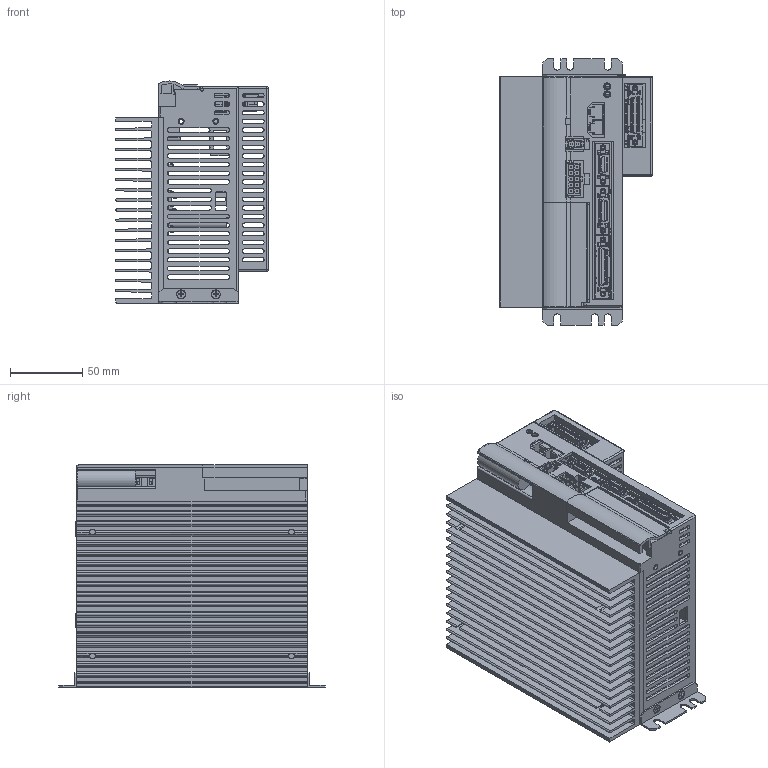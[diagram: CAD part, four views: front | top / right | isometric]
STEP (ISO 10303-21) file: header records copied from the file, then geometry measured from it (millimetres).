
FILE_DESCRIPTION( (''), '2;1');
FILE_NAME ('CA25-M40M80-_BC_3D.stp','2016-05-25T11:10:40',(''),(''),'spGate 11.3.10','spGate','');
FILE_SCHEMA (('AUTOMOTIVE_DESIGN'));
Length unit declared in the file: millimetre
Products named in the file (307): Assembly; CA25-M40M80-_BC_3D-prt0; CA25-M40M80-_BC_3D-prt1; CA25-M40M80-_BC_3D-prt2; CA25-M40M80-_BC_3D-prt3; CA25-M40M80-_BC_3D-prt4; CA25-M40M80-_BC_3D-prt5; CA25-M40M80-_BC_3D-prt6; CA25-M40M80-_BC_3D-prt7; CA25-M40M80-_BC_3D-prt8; CA25-M40M80-_BC_3D-prt9; CA25-M40M80-_BC_3D-prt10; CA25-M40M80-_BC_3D-prt11; CA25-M40M80-_BC_3D-prt12; CA25-M40M80-_BC_3D-prt13; CA25-M40M80-_BC_3D-prt14; CA25-M40M80-_BC_3D-prt15; CA25-M40M80-_BC_3D-prt16; CA25-M40M80-_BC_3D-prt17; CA25-M40M80-_BC_3D-prt18; CA25-M40M80-_BC_3D-prt19; CA25-M40M80-_BC_3D-prt20; CA25-M40M80-_BC_3D-prt21; CA25-M40M80-_BC_3D-prt22; CA25-M40M80-_BC_3D-prt23; CA25-M40M80-_BC_3D-prt24; CA25-M40M80-_BC_3D-prt25; CA25-M40M80-_BC_3D-prt26; CA25-M40M80-_BC_3D-prt27; CA25-M40M80-_BC_3D-prt28; CA25-M40M80-_BC_3D-prt29; CA25-M40M80-_BC_3D-prt30; CA25-M40M80-_BC_3D-prt31; CA25-M40M80-_BC_3D-prt32; CA25-M40M80-_BC_3D-prt33; CA25-M40M80-_BC_3D-prt34; CA25-M40M80-_BC_3D-prt35; CA25-M40M80-_BC_3D-prt36; CA25-M40M80-_BC_3D-prt37; CA25-M40M80-_BC_3D-prt38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
Assembly tree (306 placements, depth 2):
  Assembly
    CA25-M40M80-_BC_3D-prt0
    CA25-M40M80-_BC_3D-prt1
    CA25-M40M80-_BC_3D-prt2
    CA25-M40M80-_BC_3D-prt3
    CA25-M40M80-_BC_3D-prt4
    CA25-M40M80-_BC_3D-prt5
    CA25-M40M80-_BC_3D-prt6
    CA25-M40M80-_BC_3D-prt7
    CA25-M40M80-_BC_3D-prt8
    CA25-M40M80-_BC_3D-prt9
    CA25-M40M80-_BC_3D-prt10
    CA25-M40M80-_BC_3D-prt11
    CA25-M40M80-_BC_3D-prt12
    CA25-M40M80-_BC_3D-prt13
    CA25-M40M80-_BC_3D-prt14
    CA25-M40M80-_BC_3D-prt15
    CA25-M40M80-_BC_3D-prt16
    CA25-M40M80-_BC_3D-prt17
    CA25-M40M80-_BC_3D-prt18
    CA25-M40M80-_BC_3D-prt19
    CA25-M40M80-_BC_3D-prt20
    CA25-M40M80-_BC_3D-prt21
    CA25-M40M80-_BC_3D-prt22
    CA25-M40M80-_BC_3D-prt23
    CA25-M40M80-_BC_3D-prt24
    CA25-M40M80-_BC_3D-prt25
    CA25-M40M80-_BC_3D-prt26
    CA25-M40M80-_BC_3D-prt27
    CA25-M40M80-_BC_3D-prt28
    CA25-M40M80-_BC_3D-prt29
    CA25-M40M80-_BC_3D-prt30
    CA25-M40M80-_BC_3D-prt31
    CA25-M40M80-_BC_3D-prt32
    CA25-M40M80-_BC_3D-prt33
    CA25-M40M80-_BC_3D-prt34
    CA25-M40M80-_BC_3D-prt35
    CA25-M40M80-_BC_3D-prt36
    CA25-M40M80-_BC_3D-prt37
    CA25-M40M80-_BC_3D-prt38
    CA25-M40M80-_BC_3D-prt39
    CA25-M40M80-_BC_3D-prt40
    CA25-M40M80-_BC_3D-prt41
    CA25-M40M80-_BC_3D-prt42
    CA25-M40M80-_BC_3D-prt43
    CA25-M40M80-_BC_3D-prt44
    CA25-M40M80-_BC_3D-prt45
    CA25-M40M80-_BC_3D-prt46
    CA25-M40M80-_BC_3D-prt47
    CA25-M40M80-_BC_3D-prt48
    CA25-M40M80-_BC_3D-prt49
    CA25-M40M80-_BC_3D-prt50
    CA25-M40M80-_BC_3D-prt51
    CA25-M40M80-_BC_3D-prt52
    CA25-M40M80-_BC_3D-prt53
    CA25-M40M80-_BC_3D-prt54
    CA25-M40M80-_BC_3D-prt55
    CA25-M40M80-_BC_3D-prt56
    CA25-M40M80-_BC_3D-prt57
    CA25-M40M80-_BC_3D-prt58
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Bounding box: 106 x 185 x 153.99 mm (x, y, z)
Volume: 501374.6 mm3; surface area: 443861.5 mm2
Topology: 48 solids, 50 shells, 5575 faces, 15676 edges, 10726 vertices
Faces by surface type: plane 4366, cylinder 1081, bspline 112, sphere 16
Entity records: 314251 total; most frequent: CARTESIAN_POINT 39941, ORIENTED_EDGE 30762, DIRECTION 29387, COLOUR_RGB 21267, PRESENTATION_STYLE_ASSIGNMENT 21267, STYLED_ITEM 21267, DRAUGHTING_PRE_DEFINED_CURVE_FONT 15642, CURVE_STYLE 15642
